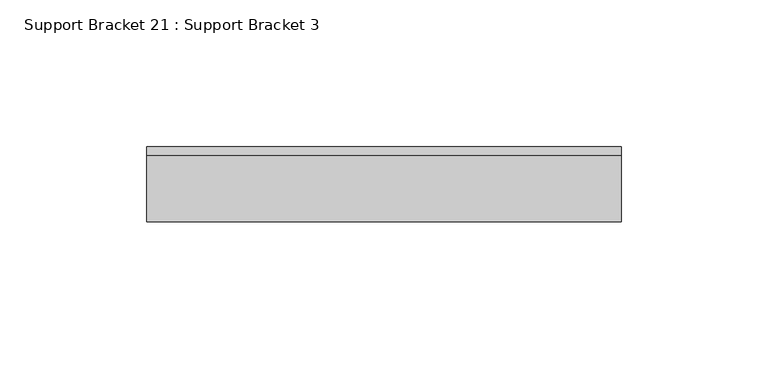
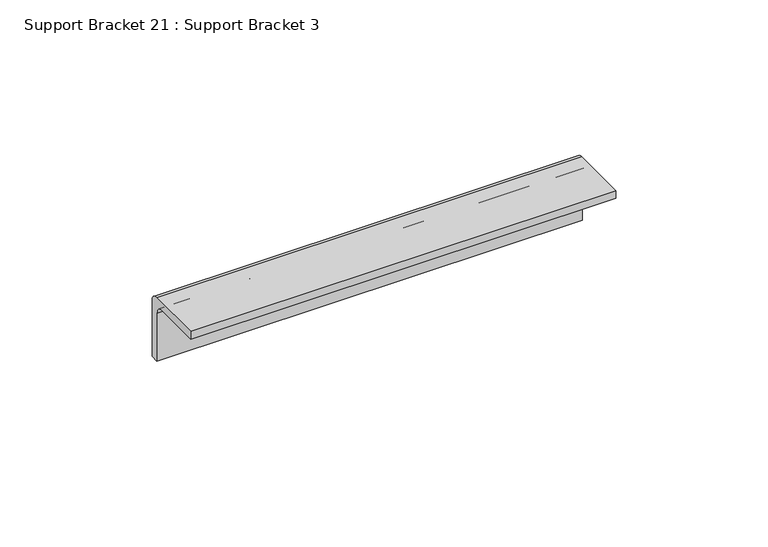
"""IFC4 building model written with IfcOpenShell, lengths in millimetres: proxy geometry, Support Bracket 21 : Support Bracket 3."""

from ifc_helpers import new_model, si_unit, point, frame, frame_2d, origin, place, context, project, spatial, polyline, circle_curve, trimmed, segment, composite_curve, outline, extrude, source, transform, mapped, element, save


def support_bracket_21_support_bracket_3_4d450183(model_context):
    return source(origin(), model_context, "Body", "SweptSolid", [
        extrude(outline(composite_curve([segment(trimmed(circle_curve(frame_2d((2832.2695776, 1154.1969176)), 3.048), [point((2832.2695776, 1157.2449176))], [point((2835.3175776, 1154.1969176))], False, "CARTESIAN"), True, "CONTINUOUS"), segment(polyline([(2835.3175776, 1154.1969176), (2835.3175776, 1131.8449176), (2832.1425776, 1131.8449176), (2832.1425776, 1151.0219176)]), True, "CONTINUOUS"), segment(trimmed(circle_curve(frame_2d((2829.0945776, 1151.0219176)), 3.048), [point((2832.1425776, 1151.0219176))], [point((2829.0945776, 1154.0699176))], True, "CARTESIAN"), True, "CONTINUOUS"), segment(polyline([(2829.0945776, 1154.0699176), (2809.9175776, 1154.0699176), (2809.9175776, 1157.2449176), (2832.2695776, 1157.2449176)]), True, "CONTINUOUS")], self_intersect=False)), frame((11627.0040465, 0.0, 0.0), z_axis=(1.0, 0.0, 0.0), x_axis=(0.0, 1.0, 0.0)), (0.0, 0.0, 1.0), 161.3296875),
    ])


if __name__ == "__main__":
    model = new_model("IFC4")
    model_context = context("Model", 3, world=origin())
    ifc_project = project(units=[si_unit("LENGTHUNIT", "METRE", prefix="MILLI")], contexts=[model_context])
    site = spatial("IfcSite", under=ifc_project)
    building = spatial("IfcBuilding", under=site)
    placement = place(None, origin())
    support_bracket_21_support_bracket_3_shape = support_bracket_21_support_bracket_3_4d450183(model_context)
    element("IfcBuildingElementProxy", 1, Name="Support Bracket 21 : Support Bracket 3", ObjectType="Support Bracket 21 : Support Bracket 3", at=placement, inside=building, context=model_context, shape_type="MappedRepresentation", body=[
        mapped(support_bracket_21_support_bracket_3_shape, transform((0.0, 0.0, 0.0), x_axis=(1.0, 0.0, 0.0), y_axis=(0.0, 1.0, 0.0), z_axis=(0.0, 0.0, 1.0))),
    ])
    save(model, "model.ifc")
